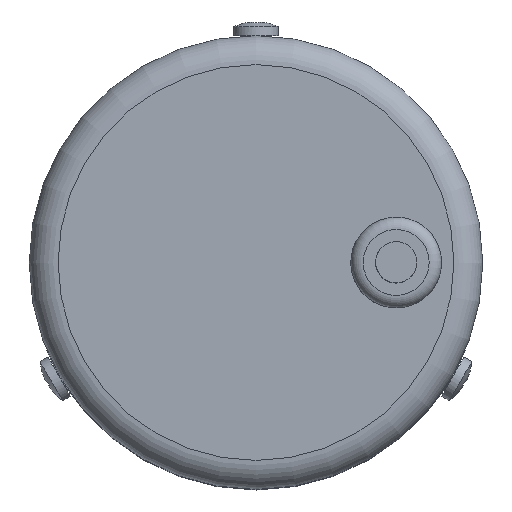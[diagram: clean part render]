
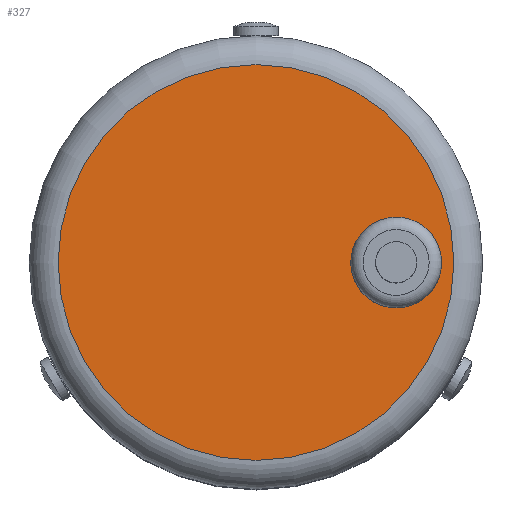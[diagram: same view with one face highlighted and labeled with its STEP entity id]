
A CAD part, top view. The second image highlights one B-rep face of the part: STEP entity #327.
In plain terms, the highlighted planar face has unit normal (0, 0, 1).
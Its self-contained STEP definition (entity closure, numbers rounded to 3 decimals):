
#327=ADVANCED_FACE('',(#672,#673),#674,.F.);
#672=FACE_BOUND('',#1012,.T.);
#673=FACE_OUTER_BOUND('',#1013,.T.);
#674=PLANE('',#1014);
#1012=EDGE_LOOP('',(#1705));
#1013=EDGE_LOOP('',(#1706));
#1014=AXIS2_PLACEMENT_3D('',#1707,#1708,#1709);
#1705=ORIENTED_EDGE('',*,*,#1789,.F.);
#1706=ORIENTED_EDGE('',*,*,#1777,.F.);
#1707=CARTESIAN_POINT('',(0.,12.0,51.5));
#1708=DIRECTION('',(0.,0.,-1.0));
#1709=DIRECTION('',(-1.0,0.,0.));
#1777=EDGE_CURVE('',#2061,#2061,#2062,.T.);
#1789=EDGE_CURVE('',#2080,#2080,#2081,.F.);
#2061=VERTEX_POINT('',#2824);
#2062=CIRCLE('',#2825,24.0);
#2080=VERTEX_POINT('',#2843);
#2081=CIRCLE('',#2844,5.5);
#2824=CARTESIAN_POINT('',(-24.0,0.,51.5));
#2825=AXIS2_PLACEMENT_3D('',#3417,#3418,#3419);
#2843=CARTESIAN_POINT('',(11.5,0.,51.5));
#2844=AXIS2_PLACEMENT_3D('',#3438,#3439,#3440);
#3417=CARTESIAN_POINT('',(0.,0.,51.5));
#3418=DIRECTION('',(0.,0.,-1.0));
#3419=DIRECTION('',(-1.0,0.,0.));
#3438=CARTESIAN_POINT('',(17.0,0.,51.5));
#3439=DIRECTION('',(0.,0.,-1.0));
#3440=DIRECTION('',(-1.0,0.0,0.));
